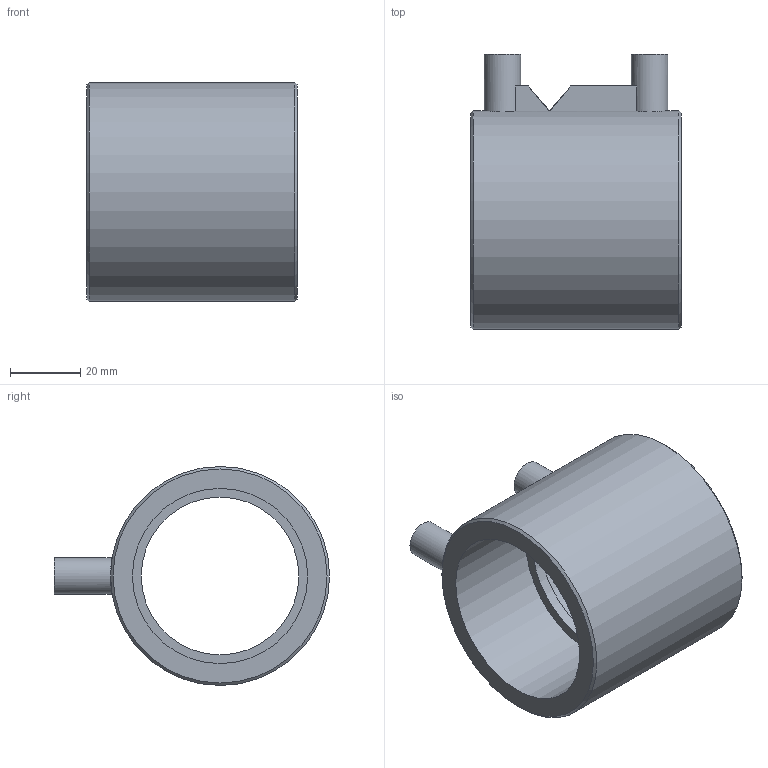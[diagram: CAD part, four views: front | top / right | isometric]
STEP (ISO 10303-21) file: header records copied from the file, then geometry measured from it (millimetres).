
FILE_DESCRIPTION(/* description */ (''),/* implementation_level */ '2;1');
FILE_NAME(/* name */ 'H:\Geberit-Teile\Export\Fertig zum Export\Elektro-Schweissmuffe_Ipart\stp\361771.stp',/* time_stamp */ '2017-07-24T13:33:02+02:00',/* author */ ('seihe2'),/* organization */ (''),/* preprocessor_version */ 'ST-DEVELOPER v15.2',/* originating_system */ 'Autodesk Inventor 2014',/* authorisation */ '');
FILE_SCHEMA (('AUTOMOTIVE_DESIGN { 1 0 10303 214 3 1 1 }'));
Length unit declared in the file: millimetre
Products named in the file (1): 361771
Bounding box: 60 x 78.5 x 62.5 mm (x, y, z)
Volume: 70008.3 mm3; surface area: 26633.2 mm2
Topology: 1 solids, 1 shells, 30 faces, 64 edges, 42 vertices
Faces by surface type: plane 14, cylinder 12, cone 4
Full cylindrical faces by diameter (mm): 7.4 x2, 10.4 x2, 45 x1, 50 x2, 51.65 x2, 62.5 x1
Entity records: 866 total; most frequent: CARTESIAN_POINT 242, DIRECTION 116, ORIENTED_EDGE 90, AXIS2_PLACEMENT_3D 52, EDGE_LOOP 51, EDGE_CURVE 45, VERTEX_POINT 36, STYLED_ITEM 31
